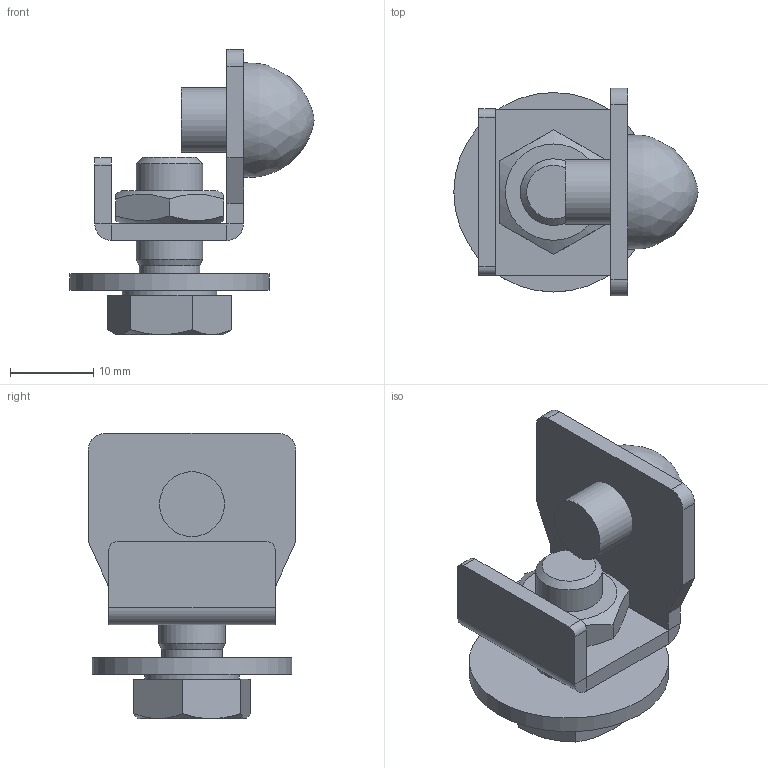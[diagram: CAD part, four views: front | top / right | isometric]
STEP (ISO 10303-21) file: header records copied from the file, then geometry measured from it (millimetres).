
FILE_DESCRIPTION(/* description */ ('Biegebrennteil'),/* implementation_level */ '2;1');
FILE_NAME(/* name */ 'Q:\sge-ma\Produktmanagement-STB\STB\Workspace\stp\010330823.stp',/* time_stamp */ '2015-07-09T15:55:04+02:00',/* author */ ('avschreier'),/* organization */ (''),/* preprocessor_version */ 'ST-DEVELOPER v15.6',/* originating_system */ 'Autodesk Inventor 2015',/* authorisation */ '');
FILE_SCHEMA (('CONFIG_CONTROL_DESIGN'));
Length unit declared in the file: millimetre
Products named in the file (6): 000302104; 000302101; DIN_EN_ISO_4017-M8x16_en; DIN_EN_ISO_7093-8,4_en; DIN_EN_ISO_4035-M8_en; 010330823
Bounding box: 29.4 x 25 x 34.3 mm (x, y, z)
Volume: 5712.8 mm3; surface area: 5178.6 mm2
Topology: 5 solids, 5 shells, 74 faces, 159 edges, 97 vertices
Faces by surface type: plane 44, cylinder 17, cone 12, bspline 1
Full cylindrical faces by diameter (mm): 6.647 x1, 7.3 x1, 7.323 x1, 7.8 x1, 8 x1, 8.4 x1, 9 x1, 11.4 x1, 24 x1
Entity records: 2040 total; most frequent: CARTESIAN_POINT 399, DIRECTION 332, ORIENTED_EDGE 284, EDGE_CURVE 142, AXIS2_PLACEMENT_3D 131, EDGE_LOOP 100, VERTEX_POINT 96, FACE_OUTER_BOUND 74
